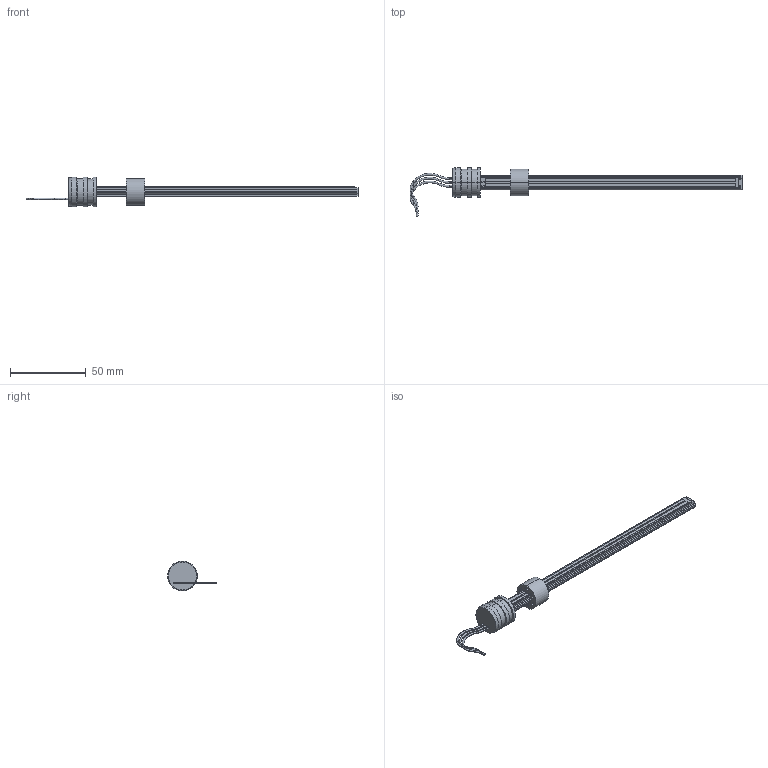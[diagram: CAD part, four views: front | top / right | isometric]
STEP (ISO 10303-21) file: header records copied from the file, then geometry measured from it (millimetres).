
FILE_DESCRIPTION (( 'STEP AP203' ), '1' );
FILE_NAME ('PS6503-regal.step', '2009-04-08T07:04:18', ( 'Gustaf Hederström' ), ( 'Cevican AB' ), 'SwSTEP 2.0', 'SolidWorks 2002308', '' );
FILE_SCHEMA (( 'CONFIG_CONTROL_DESIGN' ));
Length unit declared in the file: millimetre
Products named in the file (3): PS6503-regal; PS6503; WIPER6500-2
Assembly tree (2 placements, depth 2):
  PS6503-regal
    WIPER6500-2
    PS6503
Bounding box: 219.62 x 32.31 x 19.7 mm (x, y, z)
Volume: 15380.3 mm3; surface area: 10343 mm2
Topology: 2 solids, 3 shells, 207 faces, 560 edges, 359 vertices
Faces by surface type: plane 92, cylinder 76, bspline 35, cone 4
Entity records: 8115 total; most frequent: CARTESIAN_POINT 2599, ORIENTED_EDGE 1120, DIRECTION 1082, EDGE_CURVE 560, AXIS2_PLACEMENT_3D 387, VERTEX_POINT 359, LINE 308, VECTOR 308
